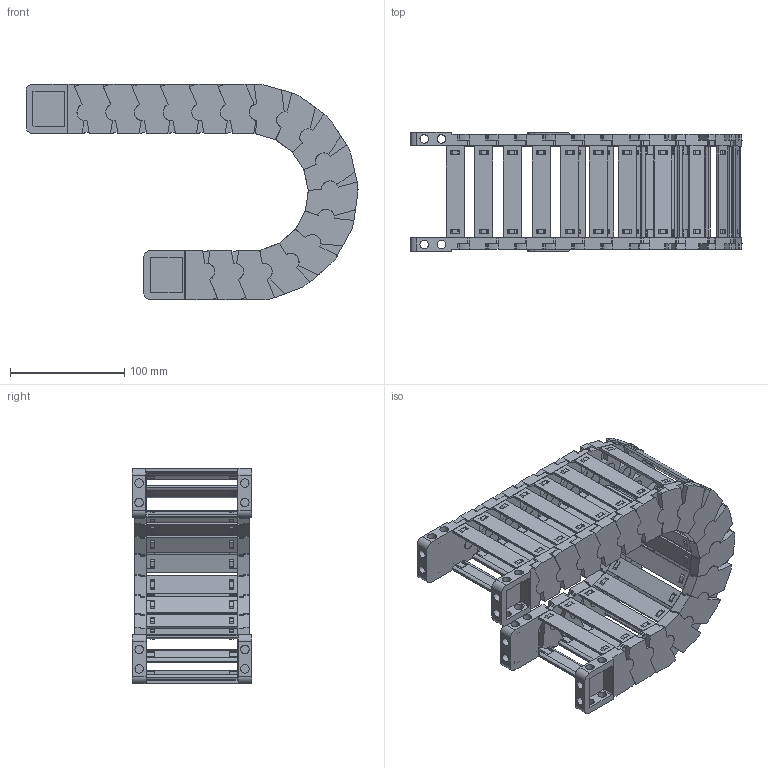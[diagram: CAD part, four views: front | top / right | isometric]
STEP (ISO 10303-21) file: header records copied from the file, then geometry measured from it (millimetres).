
FILE_DESCRIPTION((''),'2;1');
FILE_NAME('JY-35X80-R75_ASM','2022-05-06T16:18:30',('admin'),(''),'CREO PARAMETRIC BY PTC INC, 2021164','CREO PARAMETRIC BY PTC INC, 2021164','');
FILE_SCHEMA(('CONFIG_CONTROL_DESIGN','GEOMETRIC_VALIDATION_PROPERTIES_MIM'));
Length unit declared in the file: millimetre
Products named in the file (11): 35XL-L; 25-35XL-YP; 35XL-R; ASM0001_ASM; 35-LTT-A-L; 35-LTT-A-R; 35XL-LTT-A_ASM; 35-LTT-B-L; 35-LTT-B-R; 35XL-LTT-B_ASM; JY-35X80-R75_ASM
Assembly tree (30 placements, depth 3):
  JY-35X80-R75_ASM
    ASM0001_ASM  x16
      35XL-L
      25-35XL-YP
      35XL-R
    35XL-LTT-A_ASM
      35-LTT-A-L
      25-35XL-YP  x2
      35-LTT-A-R
    35XL-LTT-B_ASM
      35-LTT-B-L
      25-35XL-YP  x2
      35-LTT-B-R
Bounding box: 290.74 x 104.6 x 188.76 mm (x, y, z)
Volume: 523443.7 mm3; surface area: 325512.4 mm2
Topology: 72 solids, 72 shells, 3748 faces, 10958 edges, 7324 vertices
Faces by surface type: plane 2844, cylinder 900, bspline 4
Entity records: 20826 total; most frequent: CARTESIAN_POINT 3237, ORIENTED_EDGE 2876, DIRECTION 2858, EDGE_CURVE 1438, VECTOR 1056, LINE 1056, VERTEX_POINT 964, AXIS2_PLACEMENT_3D 901
